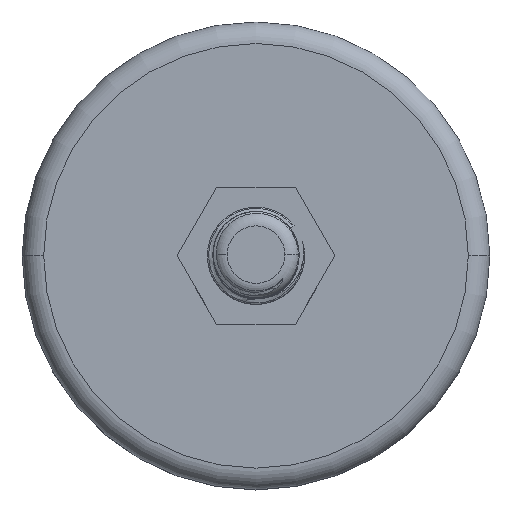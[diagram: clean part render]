
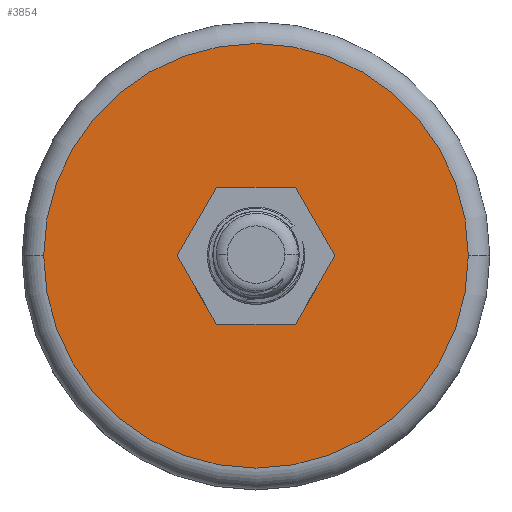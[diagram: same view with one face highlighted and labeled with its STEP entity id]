
A CAD part, top view. The second image highlights one B-rep face of the part: STEP entity #3854.
In plain terms, the highlighted planar face has unit normal (0, 0, 1).
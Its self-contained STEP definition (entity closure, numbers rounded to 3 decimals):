
#167 = FACE_OUTER_BOUND ( 'NONE', #4762, .T. ) ;
#235 = CARTESIAN_POINT ( 'NONE',  ( 5.485, 9.5, 23. ) ) ;
#356 = CARTESIAN_POINT ( 'NONE',  ( 5.485, -9.5, 23. ) ) ;
#404 = VECTOR ( 'NONE', #5050, 1000. ) ;
#460 = VERTEX_POINT ( 'NONE', #8510 ) ;
#484 = CARTESIAN_POINT ( 'NONE',  ( -5.485, 9.5, 23. ) ) ;
#519 = LINE ( 'NONE', #8579, #1208 ) ;
#612 = VERTEX_POINT ( 'NONE', #8689 ) ;
#639 = FACE_BOUND ( 'NONE', #6429, .T. ) ;
#650 = CARTESIAN_POINT ( 'NONE',  ( 0., 0., 23. ) ) ;
#774 = CARTESIAN_POINT ( 'NONE',  ( -29.5, 0., 23. ) ) ;
#809 = EDGE_CURVE ( 'NONE', #4564, #5349, #6892, .T. ) ;
#1195 = VERTEX_POINT ( 'NONE', #4456 ) ;
#1208 = VECTOR ( 'NONE', #7667, 1000. ) ;
#1614 = EDGE_CURVE ( 'NONE', #460, #6216, #4013, .T. ) ;
#1805 = ORIENTED_EDGE ( 'NONE', *, *, #809, .F. ) ;
#1979 = CARTESIAN_POINT ( 'NONE',  ( 29.5, 0., 23. ) ) ;
#2136 = ORIENTED_EDGE ( 'NONE', *, *, #8896, .F. ) ;
#2140 = DIRECTION ( 'NONE',  ( 0.5, -0.866, 0. ) ) ;
#2179 = LINE ( 'NONE', #356, #7051 ) ;
#2280 = VECTOR ( 'NONE', #2140, 1000. ) ;
#2426 = ORIENTED_EDGE ( 'NONE', *, *, #3047, .T. ) ;
#3017 = DIRECTION ( 'NONE',  ( -0.5, 0.866, 0. ) ) ;
#3047 = EDGE_CURVE ( 'NONE', #8779, #4446, #7573, .T. ) ;
#3074 = CARTESIAN_POINT ( 'NONE',  ( -10.97, 0., 23. ) ) ;
#3076 = ORIENTED_EDGE ( 'NONE', *, *, #8967, .F. ) ;
#3186 = CARTESIAN_POINT ( 'NONE',  ( -5.485, -9.5, 23. ) ) ;
#3626 = VECTOR ( 'NONE', #3017, 1000. ) ;
#3657 = CIRCLE ( 'NONE', #7011, 29.5 ) ;
#3854 = ADVANCED_FACE ( 'NONE', ( #167, #639 ), #8431, .T. ) ;
#3964 = CARTESIAN_POINT ( 'NONE',  ( 10.97, 0., 23. ) ) ;
#4013 = LINE ( 'NONE', #3074, #2280 ) ;
#4142 = ORIENTED_EDGE ( 'NONE', *, *, #7118, .F. ) ;
#4181 = EDGE_CURVE ( 'NONE', #612, #4564, #4867, .T. ) ;
#4446 = VERTEX_POINT ( 'NONE', #1979 ) ;
#4456 = CARTESIAN_POINT ( 'NONE',  ( 5.485, -9.5, 23. ) ) ;
#4564 = VERTEX_POINT ( 'NONE', #235 ) ;
#4762 = EDGE_LOOP ( 'NONE', ( #8570, #2426 ) ) ;
#4867 = LINE ( 'NONE', #3964, #3626 ) ;
#5009 = DIRECTION ( 'NONE',  ( 1., 0., 0. ) ) ;
#5050 = DIRECTION ( 'NONE',  ( -1., 0., 0. ) ) ;
#5349 = VERTEX_POINT ( 'NONE', #484 ) ;
#5543 = ORIENTED_EDGE ( 'NONE', *, *, #4181, .F. ) ;
#5678 = DIRECTION ( 'NONE',  ( 1., 0., 0. ) ) ;
#5883 = DIRECTION ( 'NONE',  ( 1., 0., 0. ) ) ;
#5946 = DIRECTION ( 'NONE',  ( 0., 0., 1. ) ) ;
#5987 = CARTESIAN_POINT ( 'NONE',  ( 5.485, 9.5, 23. ) ) ;
#6138 = VECTOR ( 'NONE', #5883, 1000. ) ;
#6204 = EDGE_CURVE ( 'NONE', #4446, #8779, #3657, .T. ) ;
#6216 = VERTEX_POINT ( 'NONE', #3186 ) ;
#6429 = EDGE_LOOP ( 'NONE', ( #5543, #3076, #2136, #6743, #4142, #1805 ) ) ;
#6605 = DIRECTION ( 'NONE',  ( 0., 0., 1. ) ) ;
#6743 = ORIENTED_EDGE ( 'NONE', *, *, #1614, .F. ) ;
#6802 = CARTESIAN_POINT ( 'NONE',  ( -5.485, -9.5, 23. ) ) ;
#6892 = LINE ( 'NONE', #5987, #404 ) ;
#7011 = AXIS2_PLACEMENT_3D ( 'NONE', #7772, #5946, #5009 ) ;
#7051 = VECTOR ( 'NONE', #8414, 1000. ) ;
#7118 = EDGE_CURVE ( 'NONE', #5349, #460, #519, .T. ) ;
#7334 = AXIS2_PLACEMENT_3D ( 'NONE', #7529, #6605, #5678 ) ;
#7529 = CARTESIAN_POINT ( 'NONE',  ( 0., 0., 23. ) ) ;
#7573 = CIRCLE ( 'NONE', #7865, 29.5 ) ;
#7667 = DIRECTION ( 'NONE',  ( -0.5, -0.866, 0. ) ) ;
#7719 = LINE ( 'NONE', #6802, #6138 ) ;
#7772 = CARTESIAN_POINT ( 'NONE',  ( 0., 0., 23. ) ) ;
#7806 = DIRECTION ( 'NONE',  ( 1., 0., 0. ) ) ;
#7865 = AXIS2_PLACEMENT_3D ( 'NONE', #650, #8735, #7806 ) ;
#8414 = DIRECTION ( 'NONE',  ( 0.5, 0.866, 0. ) ) ;
#8431 = PLANE ( 'NONE',  #7334 ) ;
#8510 = CARTESIAN_POINT ( 'NONE',  ( -10.97, 0., 23. ) ) ;
#8570 = ORIENTED_EDGE ( 'NONE', *, *, #6204, .T. ) ;
#8579 = CARTESIAN_POINT ( 'NONE',  ( -5.485, 9.5, 23. ) ) ;
#8689 = CARTESIAN_POINT ( 'NONE',  ( 10.97, 0., 23. ) ) ;
#8735 = DIRECTION ( 'NONE',  ( 0., 0., 1. ) ) ;
#8779 = VERTEX_POINT ( 'NONE', #774 ) ;
#8896 = EDGE_CURVE ( 'NONE', #6216, #1195, #7719, .T. ) ;
#8967 = EDGE_CURVE ( 'NONE', #1195, #612, #2179, .T. ) ;
